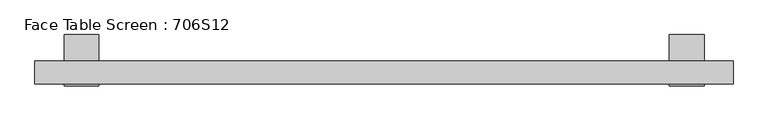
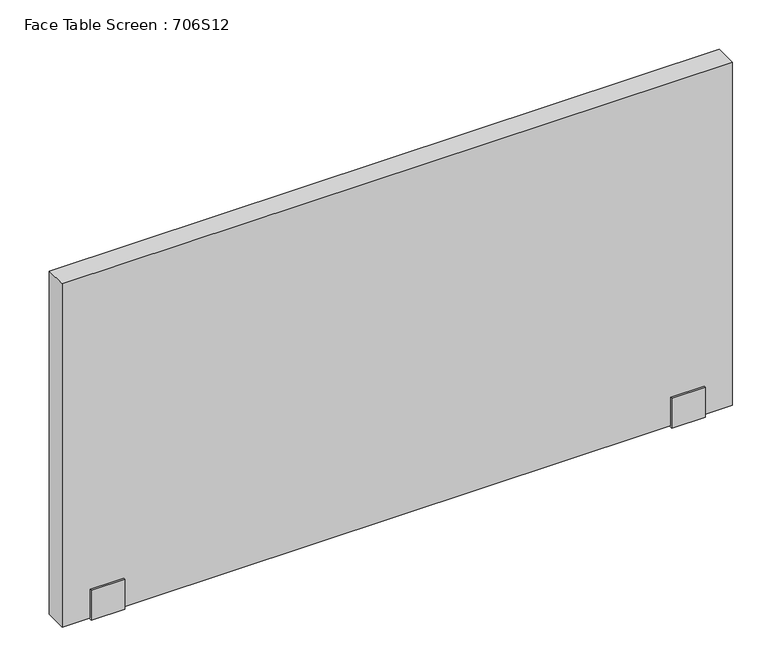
"""IFC4 building model written with IfcOpenShell, lengths in millimetres: furniture geometry, Face Table Screen : 706S12."""

from ifc_helpers import new_model, si_unit, frame, origin, place, context, project, spatial, polyline, outline, extrude, source, transform, mapped, element, save


def face_table_screen_706s12_d411597f(model_context):
    return source(origin(), model_context, "Body", "SweptSolid", [
        extrude(outline(polyline([(-22.9999947, -256.0), (-22.9999997, -199.0433898), (-20.0, -199.0433898), (-20.0, -253.0), (20.0, -253.0), (20.0, -22.0), (65.0, -22.0), (65.0, -25.0433898), (23.0000062, -25.0433898), (22.9999947, -256.0), (-22.9999947, -256.0)])), frame((490.0, 0.0, 0.0), z_axis=(1.0, 0.0, 0.0), x_axis=(0.0, 1.0, 0.0)), (0.0, 0.0, 1.0), 60.0),
        extrude(outline(polyline([(-22.9999947, -256.0), (-22.9999997, -199.0433898), (-20.0, -199.0433898), (-20.0, -253.0), (20.0, -253.0), (20.0, -22.0), (65.0, -22.0), (65.0, -25.0433898), (23.0000062, -25.0433898), (22.9999947, -256.0), (-22.9999947, -256.0)])), frame((-550.0, 0.0, 0.0), z_axis=(1.0, 0.0, 0.0), x_axis=(0.0, 1.0, 0.0)), (0.0, 0.0, 1.0), 60.0),
        extrude(outline(polyline([(600.0, -20.0), (-600.0, -20.0), (-600.0, 20.0), (600.0, 20.0), (600.0, -20.0)])), frame((0.0, 0.0, -253.0), z_axis=(0.0, 0.0, 1.0), x_axis=(1.0, 0.0, 0.0)), (0.0, 0.0, 1.0), 650.0),
    ])


if __name__ == "__main__":
    model = new_model("IFC4")
    model_context = context("Model", 3, world=origin())
    ifc_project = project(units=[si_unit("LENGTHUNIT", "METRE", prefix="MILLI")], contexts=[model_context])
    site = spatial("IfcSite", under=ifc_project)
    building = spatial("IfcBuilding", under=site)
    placement = place(None, origin())
    face_table_screen_706s12_shape = face_table_screen_706s12_d411597f(model_context)
    element("IfcFurniture", 1, ObjectType="Face Table Screen : 706S12", at=placement, inside=building, context=model_context, shape_type="MappedRepresentation", body=[
        mapped(face_table_screen_706s12_shape, transform((0.0, 0.0, 0.0), x_axis=(1.0, 0.0, 0.0), y_axis=(0.0, 1.0, 0.0), z_axis=(0.0, 0.0, 1.0))),
    ])
    save(model, "model.ifc")
